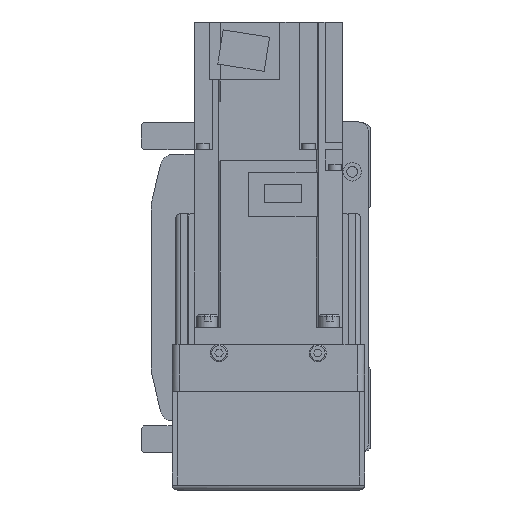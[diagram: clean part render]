
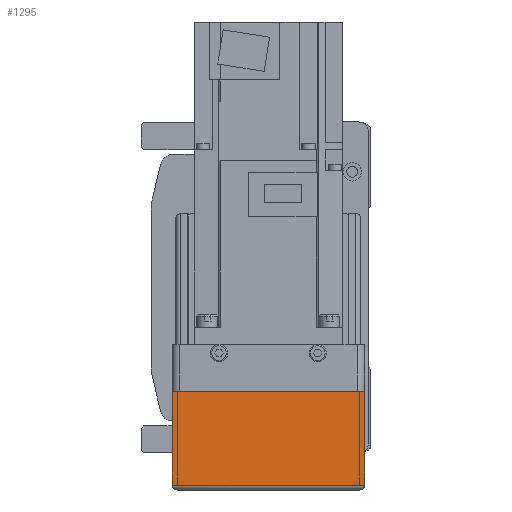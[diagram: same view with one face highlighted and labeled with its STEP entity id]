
A CAD part, left-side view. The second image highlights one B-rep face of the part: STEP entity #1295.
In plain terms, the highlighted planar face has unit normal (-1, 0, 0).
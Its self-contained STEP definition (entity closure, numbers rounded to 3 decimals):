
#1295 = ADVANCED_FACE( '', ( #3406 ), #3407, .F. );
#3406 = FACE_OUTER_BOUND( '', #6600, .T. );
#3407 = PLANE( '', #6601 );
#6600 = EDGE_LOOP( '', ( #10239, #10240, #10241, #10242 ) );
#6601 = AXIS2_PLACEMENT_3D( '', #10243, #10244, #10245 );
#10239 = ORIENTED_EDGE( '', *, *, #18702, .F. );
#10240 = ORIENTED_EDGE( '', *, *, #18703, .F. );
#10241 = ORIENTED_EDGE( '', *, *, #18704, .T. );
#10242 = ORIENTED_EDGE( '', *, *, #18705, .F. );
#10243 = CARTESIAN_POINT( '', ( -158., 36., 7. ) );
#10244 = DIRECTION( '', ( 1., 0., 0. ) );
#10245 = DIRECTION( '', ( 0., 0., -1. ) );
#18702 = EDGE_CURVE( '', #21804, #22444, #22445, .T. );
#18703 = EDGE_CURVE( '', #22446, #21804, #22447, .T. );
#18704 = EDGE_CURVE( '', #22446, #22448, #22449, .T. );
#18705 = EDGE_CURVE( '', #22444, #22448, #22450, .T. );
#21804 = VERTEX_POINT( '', #26910 );
#22444 = VERTEX_POINT( '', #27847 );
#22445 = LINE( '', #27848, #27849 );
#22446 = VERTEX_POINT( '', #27850 );
#22447 = LINE( '', #27851, #27852 );
#22448 = VERTEX_POINT( '', #27853 );
#22449 = LINE( '', #27854, #27855 );
#22450 = LINE( '', #27856, #27857 );
#26910 = CARTESIAN_POINT( '', ( -158., 39., -12.1 ) );
#27847 = CARTESIAN_POINT( '', ( -158., -39., -12.1 ) );
#27848 = CARTESIAN_POINT( '', ( -158., 50., -12.1 ) );
#27849 = VECTOR( '', #34560, 1000. );
#27850 = CARTESIAN_POINT( '', ( -158., 39., -50. ) );
#27851 = CARTESIAN_POINT( '', ( -158., 39., -50. ) );
#27852 = VECTOR( '', #34561, 1000. );
#27853 = CARTESIAN_POINT( '', ( -158., -39., -50. ) );
#27854 = CARTESIAN_POINT( '', ( -158., 40., -50. ) );
#27855 = VECTOR( '', #34562, 1000. );
#27856 = CARTESIAN_POINT( '', ( -158., -39., -12.1 ) );
#27857 = VECTOR( '', #34563, 1000. );
#34560 = DIRECTION( '', ( 0., -1., 0. ) );
#34561 = DIRECTION( '', ( 0., 0., 1. ) );
#34562 = DIRECTION( '', ( 0., -1., 0. ) );
#34563 = DIRECTION( '', ( 0., 0., -1. ) );
